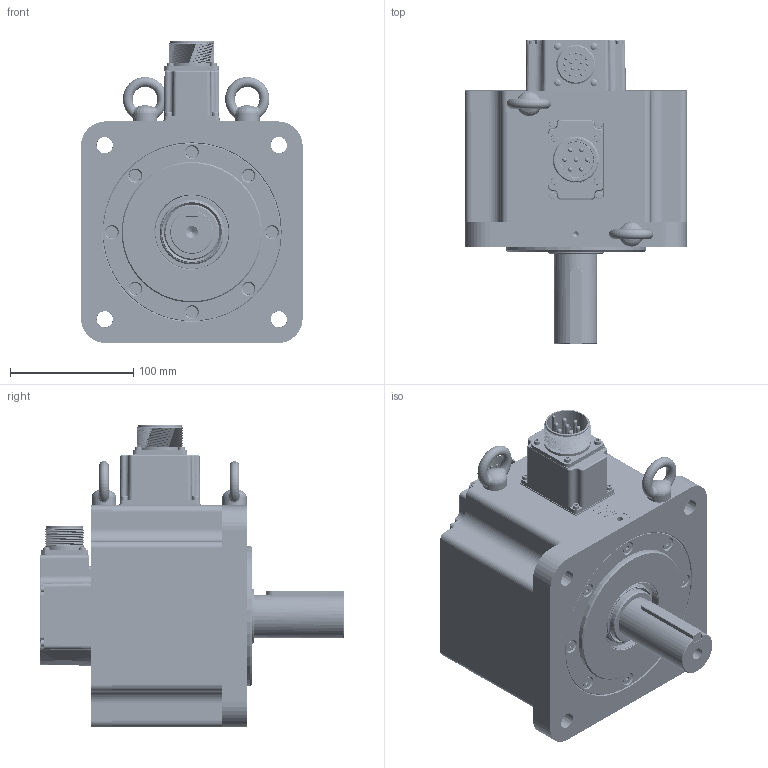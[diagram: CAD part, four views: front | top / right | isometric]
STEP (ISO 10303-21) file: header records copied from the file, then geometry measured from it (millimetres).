
FILE_DESCRIPTION( ( 'Unknown' ), '1' );
FILE_NAME( 'X:/05_Progetto TCE/010-TCE motor drawings/TCE180/vuoti/TCE180 6A XX 3 A2 0 C3.stp', 'Unknown', ( 'Unknown' ), ( 'Unknown' ), 'PSStep 17.0.49', 'Unknown', ' ' );
FILE_SCHEMA( ( 'AUTOMOTIVE_DESIGN { 1 0 10303 214 1 1 1 1 }' ) );
Length unit declared in the file: millimetre
Products named in the file (53): back cover TCE100 + CN MIL; 003303000373; 003108015154; 005911000525; 005911000525-oa3; 005911000525-oa4; 005911000525-oa5; 001107000620; U5180001_vuoto; 003120002506; 003303000370; cap-M3 nudo; 003799000581; 003303000372; 007117001752; 005911000201; 005911000190; Assem1; 005204000001; 005204000003; 005204000002; 005113001070; 005119001104; 005123001110; 005911000216; 005911000006; 005008000664-oa0; 005008000690-oa1; 005008000953-oa2; 005911000493; 003103001503; 005123001580; 003251022004; 005911000479; 005321000010; 003251022003; 003003050006
Assembly tree (80 placements, depth 3):
  Assem1
    005204000001
    005204000003
    005204000002
    005113001070
    005119001104
    005119001104
    005123001110
    005123001110
    005123001110
    005123001110
    005123001110
    005123001110
    005123001110
    005123001110
    005911000216  x4
    005911000006  x8
    005008000664-oa0
    005008000690-oa1
    005008000953-oa2
    005911000493  x4
    003103001503
    005123001580
    005123001580
    005123001580
    005123001580
    005123001580
    005123001580
    005123001580
    005123001580
    003251022004
    005911000479  x8
    005321000010  x2
    003251022003
    003003050006
    back cover TCE100 + CN MIL
      003303000373
      003108015154
      005911000525
      005911000525-oa3
      005911000525-oa4
      005911000525-oa5
      001107000620
    U5180001_vuoto
      003120002506
      003120002506
      003303000370
      cap-M3 nudo
      003799000581
      003303000372
      007117001752
      005911000201  x8
      005911000190
Bounding box: 180.3 x 247 x 245.3 mm (x, y, z)
Volume: 2300799.1 mm3; surface area: 597596.6 mm2
Topology: 78 solids, 85 shells, 2800 faces, 6876 edges, 4405 vertices
Faces by surface type: plane 1361, cylinder 686, cone 220, bspline 186, torus 175, extrusion 88, sphere 82, revolution 2
Full cylindrical faces by diameter (mm): 1.423 x1, 1.523 x1, 2 x34, 2.163 x1, 2.459 x21, 2.5 x1, 2.6 x1, 2.9 x4, 3 x30, 3.048 x4, 3.2 x1, 3.242 x6, 3.5 x11, 3.6 x7, 3.7 x4, 4 x9, 4.134 x24, 4.4 x15, 4.7 x8, 4.917 x2, 5 x16, 5.3 x1, 5.5 x14, 5.6 x4, 6 x7, 6.6 x6, 6.647 x22, 7 x8, 7.2 x1, 8 x17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
Entity records: 115496 total; most frequent: CARTESIAN_POINT 44012, DIRECTION 10546, ORIENTED_EDGE 10142, EDGE_CURVE 5071, AXIS2_PLACEMENT_3D 3930, VERTEX_POINT 3628, EDGE_LOOP 3284, FACE_OUTER_BOUND 2752
